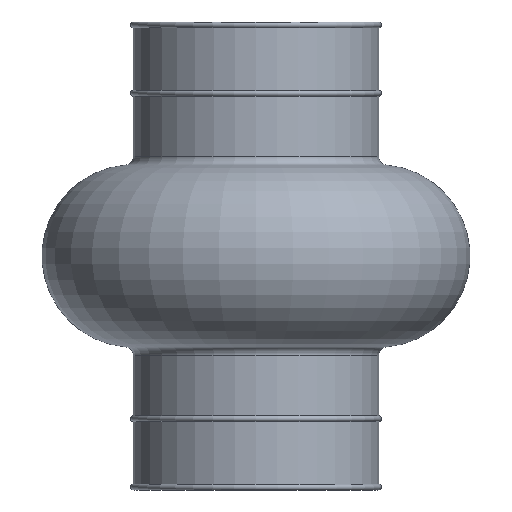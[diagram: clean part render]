
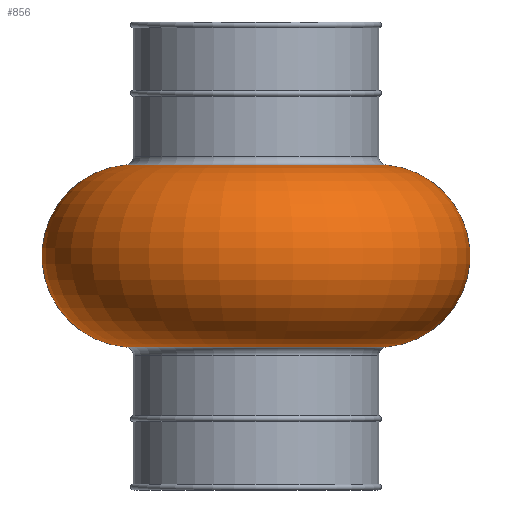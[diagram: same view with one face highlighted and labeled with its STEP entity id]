
A CAD part, left-side view. The second image highlights one B-rep face of the part: STEP entity #856.
In plain terms, the highlighted toroidal (fillet/blend) face has major radius 21.5 mm and minor radius 16 mm.
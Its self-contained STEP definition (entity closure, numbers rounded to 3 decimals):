
#8 = CIRCLE ( 'NONE', #393, 16. ) ;
#11 = CARTESIAN_POINT ( 'NONE',  ( 0., -22.871, 15.941 ) ) ;
#47 = VERTEX_POINT ( 'NONE', #347 ) ;
#71 = EDGE_CURVE ( 'NONE', #261, #47, #579, .T. ) ;
#144 = EDGE_CURVE ( 'NONE', #289, #650, #8, .T. ) ;
#152 = DIRECTION ( 'NONE',  ( 0., 0., -1. ) ) ;
#170 = DIRECTION ( 'NONE',  ( 0., 1., 0. ) ) ;
#176 = ORIENTED_EDGE ( 'NONE', *, *, #308, .T. ) ;
#178 = DIRECTION ( 'NONE',  ( 0., 1., 0. ) ) ;
#216 = TOROIDAL_SURFACE ( 'NONE', #419, 21.5, 16. ) ;
#261 = VERTEX_POINT ( 'NONE', #11 ) ;
#289 = VERTEX_POINT ( 'NONE', #487 ) ;
#308 = EDGE_CURVE ( 'NONE', #261, #289, #806, .T. ) ;
#335 = CARTESIAN_POINT ( 'NONE',  ( 0., -21.5, 0. ) ) ;
#343 = DIRECTION ( 'NONE',  ( 0., -1., 0. ) ) ;
#346 = ORIENTED_EDGE ( 'NONE', *, *, #823, .T. ) ;
#347 = CARTESIAN_POINT ( 'NONE',  ( 0., -22.871, -15.941 ) ) ;
#351 = AXIS2_PLACEMENT_3D ( 'NONE', #335, #699, #170 ) ;
#362 = DIRECTION ( 'NONE',  ( 0., 1., 0. ) ) ;
#393 = AXIS2_PLACEMENT_3D ( 'NONE', #739, #860, #476 ) ;
#396 = CARTESIAN_POINT ( 'NONE',  ( 0., 0., 0. ) ) ;
#397 = CARTESIAN_POINT ( 'NONE',  ( 0., 22.871, -15.941 ) ) ;
#419 = AXIS2_PLACEMENT_3D ( 'NONE', #396, #447, #178 ) ;
#447 = DIRECTION ( 'NONE',  ( 0., 0., -1. ) ) ;
#476 = DIRECTION ( 'NONE',  ( 0., 0., 1. ) ) ;
#487 = CARTESIAN_POINT ( 'NONE',  ( 0., 22.871, 15.941 ) ) ;
#574 = EDGE_LOOP ( 'NONE', ( #788, #176, #672, #346 ) ) ;
#579 = CIRCLE ( 'NONE', #351, 16. ) ;
#650 = VERTEX_POINT ( 'NONE', #397 ) ;
#664 = CIRCLE ( 'NONE', #698, 22.871 ) ;
#672 = ORIENTED_EDGE ( 'NONE', *, *, #144, .T. ) ;
#698 = AXIS2_PLACEMENT_3D ( 'NONE', #783, #721, #343 ) ;
#699 = DIRECTION ( 'NONE',  ( 1., 0., 0. ) ) ;
#721 = DIRECTION ( 'NONE',  ( 0., 0., 1. ) ) ;
#739 = CARTESIAN_POINT ( 'NONE',  ( 0., 21.5, 0. ) ) ;
#762 = FACE_OUTER_BOUND ( 'NONE', #574, .T. ) ;
#783 = CARTESIAN_POINT ( 'NONE',  ( 0., 0., -15.941 ) ) ;
#788 = ORIENTED_EDGE ( 'NONE', *, *, #71, .F. ) ;
#804 = CARTESIAN_POINT ( 'NONE',  ( 0., 0., 15.941 ) ) ;
#806 = CIRCLE ( 'NONE', #827, 22.871 ) ;
#823 = EDGE_CURVE ( 'NONE', #650, #47, #664, .T. ) ;
#827 = AXIS2_PLACEMENT_3D ( 'NONE', #804, #152, #362 ) ;
#856 = ADVANCED_FACE ( 'NONE', ( #762 ), #216, .T. ) ;
#860 = DIRECTION ( 'NONE',  ( -1., 0., 0. ) ) ;
